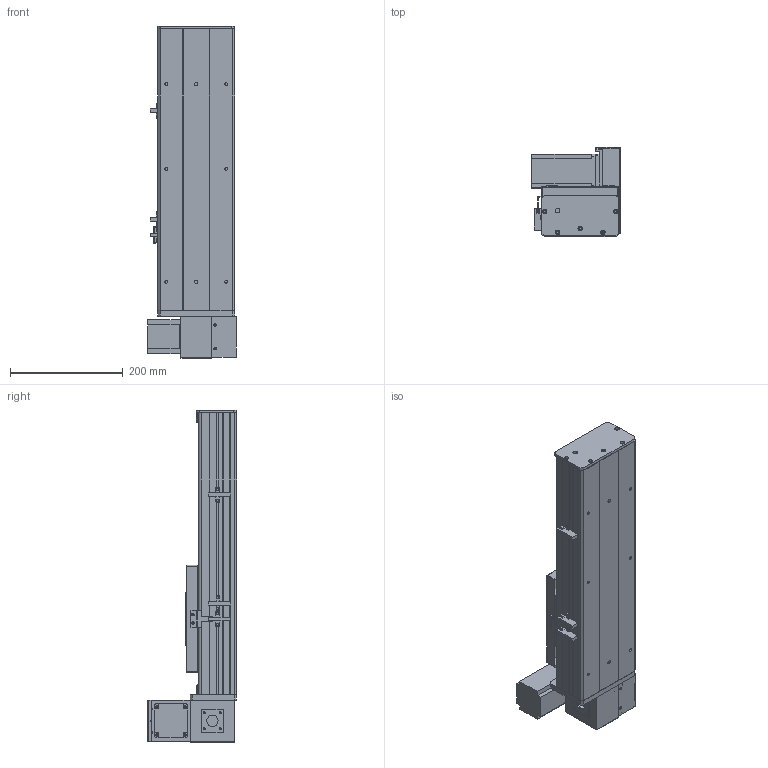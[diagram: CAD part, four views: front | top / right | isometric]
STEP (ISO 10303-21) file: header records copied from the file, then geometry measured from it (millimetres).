
FILE_DESCRIPTION (( 'STEP AP203' ), '1' );
FILE_NAME ('Y135CB-D90-S200-UL-P400W.STEP', '2020-02-18T07:00:15', ( '微软用户' ), ( '微软中国' ), 'SwSTEP 2.0', 'SolidWorks 2017', '' );
FILE_SCHEMA (( 'CONFIG_CONTROL_DESIGN' ));
Length unit declared in the file: millimetre
Products named in the file (18): 5CB --掛极耜裔啣-; C-詩湍揤踡え-陔; Y135CB-耜裔; 135CB--詩湍-CE; 135CB---遴掛极.-; Y10B-耜蚾蟀諉啣----; Y100-135俋离換覜ん--; 35CB---喘謫眊楊擘啣; 00B-俋欶BM--; Y135C-陔俋离換覜結え-; 0B-埴倛裔啣; Y10B--々湍喘謫眊--666; 5C--俋欶; 0B-源倛裔啣; Y135CB-D90-S200-UL-P400W; C-雄赽釱--; 0B-萇儂楊擘啣; san松下电机400不带刹车----
Assembly tree (21 placements, depth 2):
  Y135CB-D90-S200-UL-P400W
    Y135CB-耜裔
    135CB---遴掛极.-
    35CB---喘謫眊楊擘啣
    0B-埴倛裔啣
    0B-源倛裔啣
    0B-萇儂楊擘啣
    san松下电机400不带刹车----
    5CB --掛极耜裔啣-  x2
    C-詩湍揤踡え-陔  x2
    135CB--詩湍-CE
    Y100-135俋离換覜ん--  x3
    Y135C-陔俋离換覜結え-
    5C--俋欶
    C-雄赽釱--
    Y10B-耜蚾蟀諉啣----
    00B-俋欶BM--
    Y10B--々湍喘謫眊--666
Bounding box: 157 x 158.7 x 588 mm (x, y, z)
Volume: 2308923.7 mm3; surface area: 882202.2 mm2
Topology: 21 solids, 21 shells, 929 faces, 2455 edges, 1626 vertices
Faces by surface type: cylinder 457, plane 456, cone 16
Entity records: 28541 total; most frequent: DIRECTION 4739, CARTESIAN_POINT 4636, ORIENTED_EDGE 4386, EDGE_CURVE 2193, AXIS2_PLACEMENT_3D 1721, VERTEX_POINT 1454, VECTOR 1297, LINE 1297
